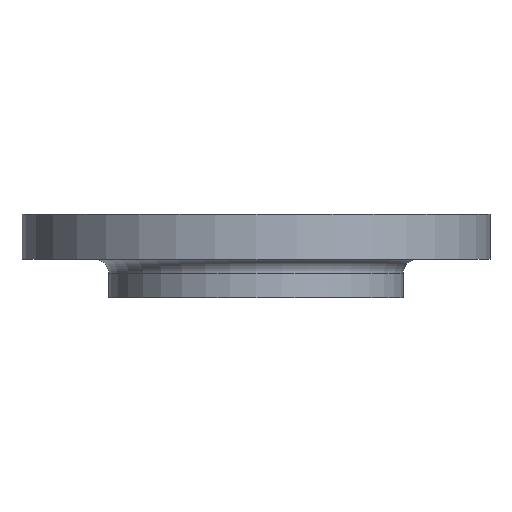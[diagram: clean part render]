
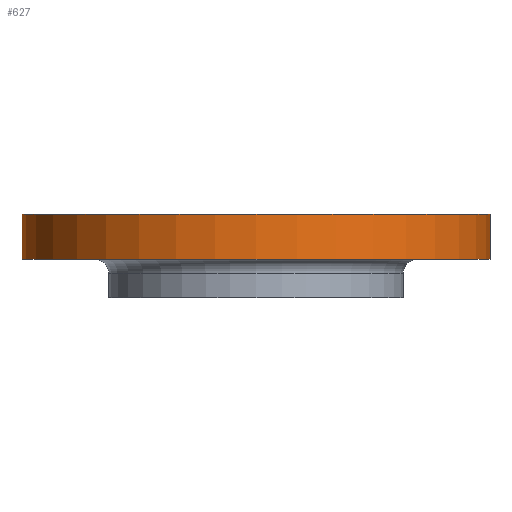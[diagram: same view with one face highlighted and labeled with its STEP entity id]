
A CAD part, front view. The second image highlights one B-rep face of the part: STEP entity #627.
In plain terms, the highlighted cylindrical face has radius 135 mm (diameter 270 mm), a partial arc.
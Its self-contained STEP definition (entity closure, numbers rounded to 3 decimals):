
#21 = ORIENTED_EDGE ( 'NONE', *, *, #857, .T. ) ;
#46 = CARTESIAN_POINT ( 'NONE',  ( 135., 0., -26. ) ) ;
#63 = VECTOR ( 'NONE', #794, 1000. ) ;
#64 = VERTEX_POINT ( 'NONE', #46 ) ;
#84 = VERTEX_POINT ( 'NONE', #771 ) ;
#91 = EDGE_LOOP ( 'NONE', ( #220, #98, #21, #937 ) ) ;
#98 = ORIENTED_EDGE ( 'NONE', *, *, #511, .T. ) ;
#121 = DIRECTION ( 'NONE',  ( 1., 0., 0. ) ) ;
#123 = CIRCLE ( 'NONE', #653, 135. ) ;
#124 = CARTESIAN_POINT ( 'NONE',  ( -135., 0., -78. ) ) ;
#220 = ORIENTED_EDGE ( 'NONE', *, *, #552, .F. ) ;
#221 = CARTESIAN_POINT ( 'NONE',  ( 0., 0., -78. ) ) ;
#222 = LINE ( 'NONE', #503, #63 ) ;
#252 = DIRECTION ( 'NONE',  ( 0., 0., 1. ) ) ;
#270 = CIRCLE ( 'NONE', #798, 135. ) ;
#287 = EDGE_CURVE ( 'NONE', #686, #767, #123, .T. ) ;
#302 = CARTESIAN_POINT ( 'NONE',  ( -135., 0., 0. ) ) ;
#410 = DIRECTION ( 'NONE',  ( 0., 0., 1. ) ) ;
#481 = CARTESIAN_POINT ( 'NONE',  ( 0., 0., -26. ) ) ;
#502 = DIRECTION ( 'NONE',  ( 0., 0., 1. ) ) ;
#503 = CARTESIAN_POINT ( 'NONE',  ( 135., 0., -78. ) ) ;
#511 = EDGE_CURVE ( 'NONE', #84, #64, #270, .T. ) ;
#533 = DIRECTION ( 'NONE',  ( 1., 0., 0. ) ) ;
#552 = EDGE_CURVE ( 'NONE', #84, #686, #778, .T. ) ;
#560 = AXIS2_PLACEMENT_3D ( 'NONE', #221, #502, #793 ) ;
#572 = FACE_OUTER_BOUND ( 'NONE', #91, .T. ) ;
#627 = ADVANCED_FACE ( 'NONE', ( #572 ), #869, .T. ) ;
#653 = AXIS2_PLACEMENT_3D ( 'NONE', #901, #252, #533 ) ;
#686 = VERTEX_POINT ( 'NONE', #302 ) ;
#760 = VECTOR ( 'NONE', #410, 1000. ) ;
#766 = CARTESIAN_POINT ( 'NONE',  ( 135., 0., 0. ) ) ;
#767 = VERTEX_POINT ( 'NONE', #766 ) ;
#771 = CARTESIAN_POINT ( 'NONE',  ( -135., 0., -26. ) ) ;
#776 = DIRECTION ( 'NONE',  ( 0., 0., 1. ) ) ;
#778 = LINE ( 'NONE', #124, #760 ) ;
#793 = DIRECTION ( 'NONE',  ( 1., 0., 0. ) ) ;
#794 = DIRECTION ( 'NONE',  ( 0., 0., 1. ) ) ;
#798 = AXIS2_PLACEMENT_3D ( 'NONE', #481, #776, #121 ) ;
#857 = EDGE_CURVE ( 'NONE', #64, #767, #222, .T. ) ;
#869 = CYLINDRICAL_SURFACE ( 'NONE', #560, 135. ) ;
#901 = CARTESIAN_POINT ( 'NONE',  ( 0., 0., 0. ) ) ;
#937 = ORIENTED_EDGE ( 'NONE', *, *, #287, .F. ) ;
